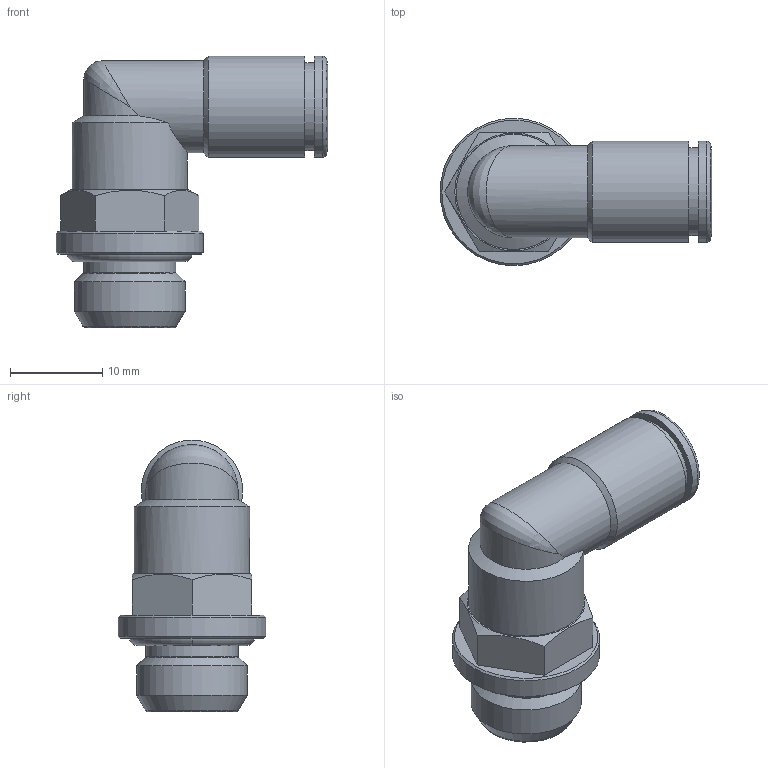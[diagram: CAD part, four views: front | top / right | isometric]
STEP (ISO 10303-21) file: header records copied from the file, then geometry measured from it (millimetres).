
FILE_DESCRIPTION(('Bauteilbeschreibung','HiCAD-Model','HiCAD-STEP-TRANSLATION','Bauteilbeschreibung'),'2;1');
FILE_NAME('B:/ABGLEICH/ZEICHNUNGEN/STEP FÜR INTERNET/STEP/IPSO 022/202222_IPSO_022_6_M12X1,5.STP','2012-02-07T08:04:34+00:00',('Konstrukteur'),('Konstrukteur Firma GmbH'),' HiCAD neXt 2008, Step 3.1.1401.2J ','HiCAD neXt 2008','confidential');
FILE_SCHEMA(('AUTOMOTIVE_DESIGN { 1 2 10303 214 0 1 1 1 }'));
Length unit declared in the file: millimetre
Products named in the file (7): A02222_IPSO_022_6_M12X1_5; OR 10X1_8; DR6_1_NEU; R202203_N2; A14609_N2; A146090N2; DIN 13_M12X1_5
Assembly tree (6 placements, depth 3):
  A02222_IPSO_022_6_M12X1_5
    OR 10X1_8
    DR6_1_NEU
    R202203_N2
    A14609_N2
    A146090N2
      DIN 13_M12X1_5
Bounding box: 29.5 x 16 x 29.5 mm (x, y, z)
Volume: 3218.2 mm3; surface area: 4563.6 mm2
Topology: 5 solids, 5 shells, 76 faces, 167 edges, 102 vertices
Faces by surface type: cylinder 24, cone 24, plane 20, torus 7, bspline 1
Full cylindrical faces by diameter (mm): 4 x1, 5.5 x1, 6 x1, 6.1 x1, 6.2 x1, 7.5 x1, 8.3 x1, 9 x3, 9.5 x1, 9.6 x1, 10 x2, 10.1 x2, 10.16 x2, 11 x2, 12 x1, 12.5 x1, 16 x1
Entity records: 3384 total; most frequent: CARTESIAN_POINT 1412, DIRECTION 330, ORIENTED_EDGE 192, AXIS2_PLACEMENT_3D 159, EDGE_LOOP 139, EDGE_CURVE 96, COLOUR_RGB 87, PRESENTATION_STYLE_ASSIGNMENT 87
